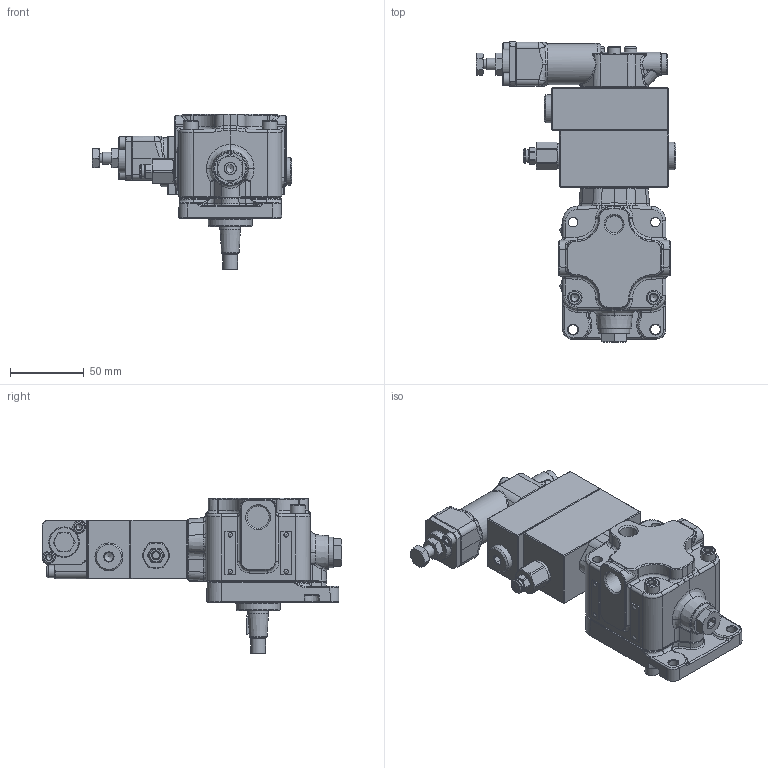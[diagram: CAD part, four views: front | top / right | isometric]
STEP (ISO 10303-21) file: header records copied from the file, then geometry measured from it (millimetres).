
FILE_DESCRIPTION(/* description */ (''),/* implementation_level */ '2;1');
FILE_NAME(/* name */ 'W:\Tecnico\A-Archivio\Modelli 3D\23\2300811120_Semplifica_1.stp',/* time_stamp */ '2022-04-13T13:39:11+02:00',/* author */ ('marcop'),/* organization */ (''),/* preprocessor_version */ 'ST-DEVELOPER v18.1',/* originating_system */ 'Autodesk Inventor 2022',/* authorisation */ '');
FILE_SCHEMA (('AUTOMOTIVE_DESIGN { 1 0 10303 214 3 1 1 }'));
Products named in the file (1): 2300811120_Semplifica_1
Bounding box: 136 x 204 x 106 mm (x, y, z)
Volume: 651882.6 mm3; surface area: 92524 mm2
Topology: 1 solids, 1 shells, 1248 faces, 2982 edges, 1783 vertices
Faces by surface type: plane 523, bspline 249, cone 218, cylinder 214, torus 34, sphere 10
Full cylindrical faces by diameter (mm): 2 x2, 4.917 x3, 5 x3, 5.5 x6, 6 x2, 6.5 x9, 8 x2, 8.376 x1, 8.5 x5, 8.8 x1, 10 x4, 11.445 x3, 14 x3, 14.95 x2, 16 x1, 16.5 x1, 19 x2, 20 x2, 21 x1, 22 x2, 22.8 x1, 28 x1, 30 x1
Entity records: 59943 total; most frequent: CARTESIAN_POINT 31708, ORIENTED_EDGE 5934, DIRECTION 5158, EDGE_CURVE 2967, AXIS2_PLACEMENT_3D 1901, VERTEX_POINT 1783, LINE 1356, VECTOR 1356
